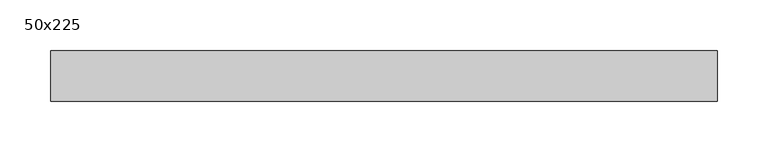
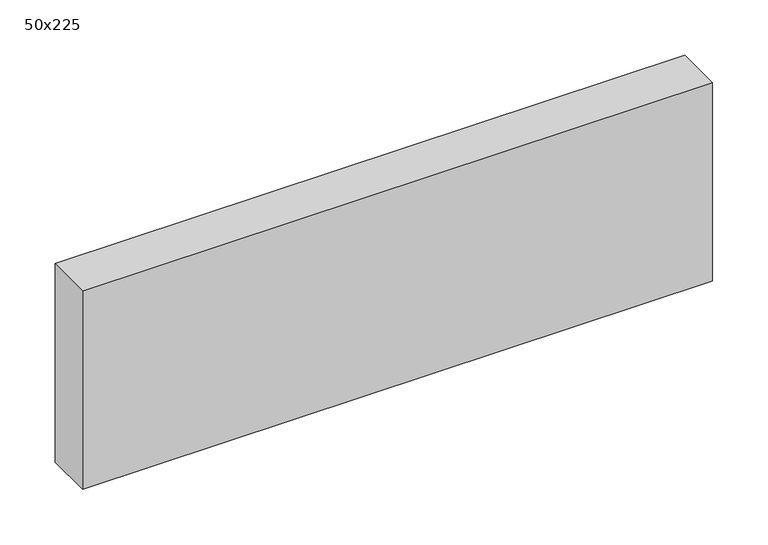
"""IFC4 building model written with IfcOpenShell, lengths in millimetres: beam geometry, Graded Timber : 50x225."""

from ifc_helpers import new_model, si_unit, frame, origin, place, context, project, spatial, polyline, outline, extrude, source, transform, mapped, element, save


def beam_50x225_e313bacc(model_context):
    return source(origin(), model_context, "Body", "SweptSolid", [
        extrude(outline(polyline([(330.0, 25.0), (330.0, -25.0), (-330.0, -25.0), (-330.0, 25.0), (330.0, 25.0)])), frame((0.0, 0.0, -110.0), z_axis=(0.0, 0.0, 1.0), x_axis=(1.0, 0.0, 0.0)), (0.0, 0.0, 1.0), 220.0),
    ])


if __name__ == "__main__":
    model = new_model("IFC4")
    model_context = context("Model", 3, world=origin())
    ifc_project = project(units=[si_unit("LENGTHUNIT", "METRE", prefix="MILLI")], contexts=[model_context])
    site = spatial("IfcSite", under=ifc_project)
    building = spatial("IfcBuilding", under=site)
    placement = place(None, origin())
    beam_50x225_shape = beam_50x225_e313bacc(model_context)
    element("IfcBeam", 1, ObjectType="Graded Timber : 50x225", at=placement, inside=building, context=model_context, shape_type="MappedRepresentation", body=[
        mapped(beam_50x225_shape, transform((0.0, 0.0, 0.0), x_axis=(1.0, 0.0, 0.0), y_axis=(0.0, 1.0, 0.0), z_axis=(0.0, 0.0, 1.0))),
    ])
    save(model, "model.ifc")
